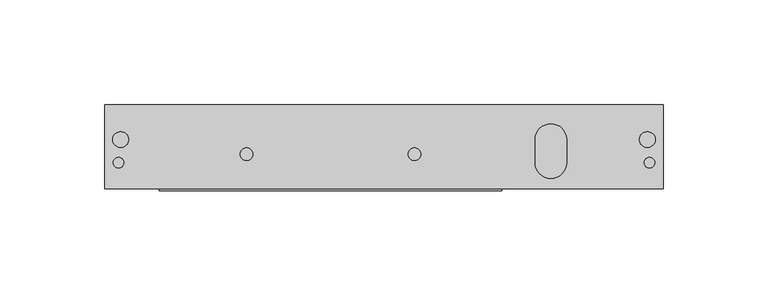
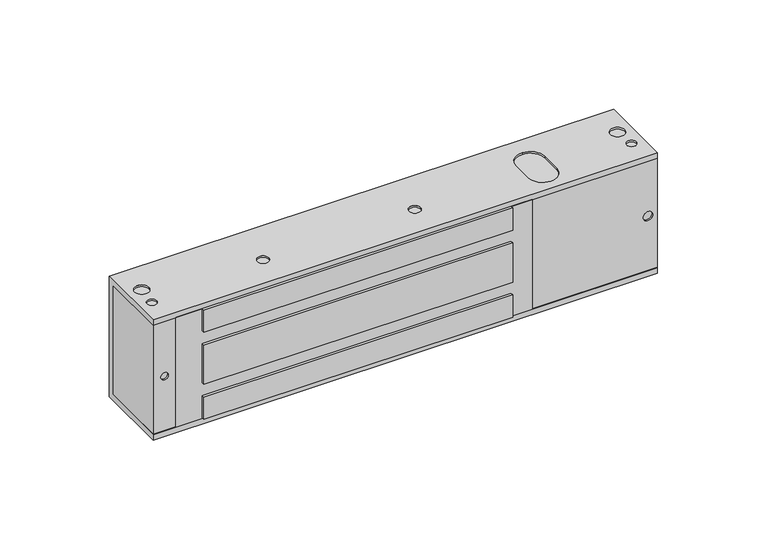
"""IFC4 building model written with IfcOpenShell, lengths in millimetres: proxy geometry, Электромагнитный_замок_ML-500АL_с_герконом_AccordTec_R19 : Электромагнитный_замок_ML-500АL_с_герконом_AccordTec_R19."""

import ifcopenshell
import ifcopenshell.guid

model = None  # the IFC model being written
_history = None  # IfcOwnerHistory: only IFC2X3 demands one
_inside = {}  # id of a spatial element -> (the spatial element, [elements in it])
_under = {}  # id of a project, library or spatial element -> (it, [spatial elements below it])
_declared = {}  # id of a project -> (the project, [libraries it declares])
_typed = {}  # id of a type object -> (the type object, [elements of that type])
_made_of = {}  # id of a material, layer set ... -> (it, [elements and type objects made of it])


def new_model(schema):
    """Start an empty IFC model of exactly this schema.

    Asked for "IFC4X3", IfcOpenShell would pick the latest addendum, in which some entities
    have other attributes; the version numbers below select the first issue.
    IFC2X3 requires an IfcOwnerHistory on every rooted entity: one is made here for all.
    """
    global model, _history
    if schema == "IFC4X3":
        model = ifcopenshell.file(schema_version=(4, 3, 0, 0))
    else:
        model = ifcopenshell.file(schema=schema)
    _inside.clear()
    _under.clear()
    _declared.clear()
    _typed.clear()
    _made_of.clear()
    _history = None
    if model.schema == "IFC2X3":
        org = make("IfcOrganization", Name="unknown")
        user = make(
            "IfcPersonAndOrganization",
            ThePerson=make("IfcPerson", FamilyName="unknown"),
            TheOrganization=org,
        )
        app = make(
            "IfcApplication",
            ApplicationDeveloper=org,
            Version="unknown",
            ApplicationFullName="unknown",
            ApplicationIdentifier="unknown",
        )
        _history = make(
            "IfcOwnerHistory",
            OwningUser=user,
            OwningApplication=app,
            ChangeAction="ADDED",
            CreationDate=0,
        )
    return model


def make(cls, **values):
    """One entity of the class cls with the attributes given. An attribute that is None is left unset."""
    return model.create_entity(
        cls, **{name: value for name, value in values.items() if value is not None}
    )


def rooted(cls, **values):
    """An entity with a GlobalId (a new one), such as an element, a storey or a relation."""
    return make(cls, GlobalId=ifcopenshell.guid.new(), OwnerHistory=_history, **values)


def si_unit(unit_type, name, prefix=None):
    """IfcSIUnit, for example si_unit("LENGTHUNIT", "METRE", prefix="MILLI")."""
    return make("IfcSIUnit", UnitType=unit_type, Prefix=prefix, Name=name)


def assignment(units):
    """IfcUnitAssignment: the units of a project."""
    return None if units is None else make("IfcUnitAssignment", Units=units)


def point(xyz):
    """IfcCartesianPoint."""
    return None if xyz is None else make("IfcCartesianPoint", Coordinates=xyz)


def direction(xyz):
    """IfcDirection."""
    return None if xyz is None else make("IfcDirection", DirectionRatios=xyz)


def frame(location, z_axis=None, x_axis=None):
    """IfcAxis2Placement3D, a coordinate frame: its origin and axes. An axis left out is left unset."""
    return make(
        "IfcAxis2Placement3D",
        Location=point(location),
        Axis=direction(z_axis),
        RefDirection=direction(x_axis),
    )


def origin():
    """The frame at (0, 0, 0) with its axes left unset."""
    return frame((0.0, 0.0, 0.0))


def place(relative_to, where):
    """IfcLocalPlacement: puts the frame where relative to a parent placement (None: the world)."""
    return make(
        "IfcLocalPlacement", PlacementRelTo=relative_to, RelativePlacement=where
    )


def context(
    kind, dimensions, precision=None, world=None, true_north=None, identifier=None
):
    """IfcGeometricRepresentationContext, for example the 3D "Model" context."""
    return make(
        "IfcGeometricRepresentationContext",
        ContextIdentifier=identifier,
        ContextType=kind,
        CoordinateSpaceDimension=dimensions,
        Precision=precision,
        WorldCoordinateSystem=world,
        TrueNorth=true_north,
    )


def project(units=None, contexts=None):
    """IfcProject with its units and contexts."""
    return rooted(
        "IfcProject",
        Name="project",
        RepresentationContexts=contexts,
        UnitsInContext=assignment(units),
    )


def spatial(cls, under=None, at=None, **own):
    """A site, building, storey or space (cls), placed at a placement, below another one or the project."""
    s = rooted(cls, ObjectPlacement=at, **own)
    if under is not None:
        _under.setdefault(under.id(), (under, []))[1].append(s)
    return s


def polyline(points):
    """IfcPolyline through the points."""
    return make("IfcPolyline", Points=[point(p) for p in points])


def circle_curve(where, radius):
    """IfcCircle in the frame where."""
    return make("IfcCircle", Position=where, Radius=radius)


def outline(outer, holes=None, kind="AREA"):
    """IfcArbitraryClosedProfileDef: a profile drawn as a closed curve; with holes, ...WithVoids."""
    if holes is None:
        return make("IfcArbitraryClosedProfileDef", ProfileType=kind, OuterCurve=outer)
    return make(
        "IfcArbitraryProfileDefWithVoids",
        ProfileType=kind,
        OuterCurve=outer,
        InnerCurves=holes,
    )


def extrude(swept, where, along, depth):
    """IfcExtrudedAreaSolid: the profile swept, set in the frame where, extruded along a direction by depth."""
    return make(
        "IfcExtrudedAreaSolid",
        SweptArea=swept,
        Position=where,
        ExtrudedDirection=direction(along),
        Depth=depth,
    )


def shape(context_of_items, identifier, shape_type, items):
    """IfcShapeRepresentation: the items that make up one representation, for example the "Body"."""
    return make(
        "IfcShapeRepresentation",
        ContextOfItems=context_of_items,
        RepresentationIdentifier=identifier,
        RepresentationType=shape_type,
        Items=items,
    )


def source(mapping_origin, context_of_items, identifier, shape_type, items):
    """IfcRepresentationMap: a shape defined once, which mapped items show again and again."""
    return make(
        "IfcRepresentationMap",
        MappingOrigin=mapping_origin,
        MappedRepresentation=shape(context_of_items, identifier, shape_type, items),
    )


def transform(
    local_origin,
    x_axis=None,
    y_axis=None,
    z_axis=None,
    scale=None,
    scale2=None,
    scale3=None,
    uniform=True,
):
    """IfcCartesianTransformationOperator3D, or its non-uniform kind. x_axis, y_axis, z_axis: its Axis1, 2, 3."""
    if uniform:
        return make(
            "IfcCartesianTransformationOperator3D",
            Axis1=direction(x_axis),
            Axis2=direction(y_axis),
            LocalOrigin=point(local_origin),
            Scale=scale,
            Axis3=direction(z_axis),
        )
    return make(
        "IfcCartesianTransformationOperator3DnonUniform",
        Axis1=direction(x_axis),
        Axis2=direction(y_axis),
        LocalOrigin=point(local_origin),
        Scale=scale,
        Axis3=direction(z_axis),
        Scale2=scale2,
        Scale3=scale3,
    )


def mapped(mapping_source, mapping_target):
    """IfcMappedItem: shows the shape of a source again, moved by a transform."""
    return make(
        "IfcMappedItem", MappingSource=mapping_source, MappingTarget=mapping_target
    )


def made_of(thing, what):
    """Note that an element or type object is made of a material, layer set ...; save() writes the relation."""
    if what is not None:
        _made_of.setdefault(what.id(), (what, []))[1].append(thing)
    return thing


def element(
    cls,
    number,
    at=None,
    inside=None,
    cuts=None,
    type_object=None,
    material=None,
    context=None,
    identifier="Body",
    shape_type=None,
    held_by="IfcProductDefinitionShape",
    body=None,
    shapes=None,
    **own,
):
    """One element of the class cls, such as IfcWall. Its Tag is "e" and its number.

    at: its placement. inside: the storey or other place that contains it. cuts: it is an
    opening in that element (IfcRelVoidsElement). A single representation is given by context,
    identifier, shape_type and body (its items); several are given by shapes. held_by: the class
    of the entity that holds the representations. save() writes the other relations.
    """
    e = rooted(cls, Tag="e%d" % number, ObjectPlacement=at, **own)
    if body is not None:
        shapes = [shape(context, identifier, shape_type, body)]
    if shapes is not None:
        e.Representation = make(held_by, Representations=shapes)
    if inside is not None:
        _inside.setdefault(inside.id(), (inside, []))[1].append(e)
    if cuts is not None:
        rooted(
            "IfcRelVoidsElement", RelatingBuildingElement=cuts, RelatedOpeningElement=e
        )
    if type_object is not None:
        _typed.setdefault(type_object.id(), (type_object, []))[1].append(e)
    return made_of(e, material)


def aggregate(whole, parts):
    """IfcRelAggregates: a whole, such as a stair, and the parts it consists of."""
    return rooted("IfcRelAggregates", RelatingObject=whole, RelatedObjects=parts)


def save(model, path):
    """Write the relations noted so far, then the file.

    IfcRelAggregates (storeys below a building ...), IfcRelContainedInSpatialStructure (elements
    in a storey), IfcRelDefinesByType, IfcRelAssociatesMaterial and IfcRelDeclares: one each for
    every whole, place, type object, material and project.
    """
    for whole, parts in _under.values():
        aggregate(whole, parts)
    for where, things in _inside.values():
        rooted(
            "IfcRelContainedInSpatialStructure",
            RelatedElements=things,
            RelatingStructure=where,
        )
    for kind, things in _typed.values():
        rooted("IfcRelDefinesByType", RelatedObjects=things, RelatingType=kind)
    for what, things in _made_of.values():
        rooted("IfcRelAssociatesMaterial", RelatedObjects=things, RelatingMaterial=what)
    for by, libraries in _declared.values():
        rooted("IfcRelDeclares", RelatingContext=by, RelatedDefinitions=libraries)
    model.write(path)


def plane_surface(at):
    """IfcPlane: the flat surface through the origin of the frame at, square to its z axis."""
    return make("IfcPlane", Position=at)


def revolved_surface(curve, axis_point, axis_direction):
    """IfcSurfaceOfRevolution: the curve turned about the line through axis_point along axis_direction."""
    return make(
        "IfcSurfaceOfRevolution",
        SweptCurve=make("IfcArbitraryOpenProfileDef", ProfileType="CURVE", Curve=curve),
        AxisPosition=make("IfcAxis1Placement", Location=point(axis_point), Axis=direction(axis_direction)),
    )


def advanced_brep(points, edges, surfaces, faces):
    """IfcAdvancedBrep: a solid bounded by faces that lie on surfaces and meet in shared edges.

    An edge is (start, end): straight between two places in points (the first is 0);
    or (start, end, curve); or (start, end, curve, False) where it runs against its curve.
    A face is (place in surfaces, loops), or (place, loops, False) where it looks against
    its surface's normal. A loop lists edges by number (the first is 1), with a minus sign
    where the edge is run from its end to its start. The first loop is the outer one.
    """
    corners = [point(p) for p in points]
    vertices = [make("IfcVertexPoint", VertexGeometry=c) for c in corners]
    made = []
    for start, end, *more in edges:
        made.append(
            make(
                "IfcEdgeCurve",
                EdgeStart=vertices[start],
                EdgeEnd=vertices[end],
                EdgeGeometry=more[0] if more else make("IfcPolyline", Points=[corners[start], corners[end]]),
                SameSense=more[1] if len(more) > 1 else True,
            )
        )
    hull = []
    for where, loops, *sense in faces:
        bounds = []
        for j, loop in enumerate(loops):
            ring = [make("IfcOrientedEdge", EdgeElement=made[abs(k) - 1], Orientation=k > 0) for k in loop]
            bounds.append(
                make(
                    "IfcFaceOuterBound" if j == 0 else "IfcFaceBound",
                    Bound=make("IfcEdgeLoop", EdgeList=ring),
                    Orientation=True,
                )
            )
        hull.append(make("IfcAdvancedFace", Bounds=bounds, FaceSurface=surfaces[where], SameSense=sense[0] if sense else True))
    return make("IfcAdvancedBrep", Outer=make("IfcClosedShell", CfsFaces=hull))


def generic_models_5bd64e26(model_context):
    return source(origin(), model_context, "Body", "SolidModel", [
        extrude(outline(polyline([(189.0, -1.0), (26.0, -1.0), (26.0, 1.0), (189.0, 1.0), (189.0, -1.0)])), frame((0.0, 0.0, 51.5), z_axis=(0.0, 0.0, 1.0), x_axis=(1.0, 0.0, 0.0)), (0.0, 0.0, 1.0), 12.5),
        extrude(outline(polyline([(189.0, -1.0), (26.0, -1.0), (26.0, 1.0), (189.0, 1.0), (189.0, -1.0)])), frame((0.0, 0.0, 22.5), z_axis=(0.0, 0.0, 1.0), x_axis=(1.0, 0.0, 0.0)), (0.0, 0.0, 1.0), 22.0),
        extrude(outline(polyline([(189.0, -1.0), (26.0, -1.0), (26.0, 1.0), (189.0, 1.0), (189.0, -1.0)])), frame((0.0, 0.0, 3.0), z_axis=(0.0, 0.0, 1.0), x_axis=(1.0, 0.0, 0.0)), (0.0, 0.0, 1.0), 12.5),
        extrude(outline(polyline([(64.0, 12.0), (3.0, 12.0), (3.0, 26.0), (15.5, 26.0), (15.5, 189.0), (3.0, 189.0), (3.0, 200.0), (64.0, 200.0), (64.0, 189.0), (51.5, 189.0), (51.5, 26.0), (64.0, 26.0), (64.0, 12.0)]), holes=[polyline([(44.5, 26.0), (44.5, 189.0), (22.5, 189.0), (22.5, 26.0), (44.5, 26.0)])]), frame((0.0, 0.0, 0.0), z_axis=(0.0, 1.0, 0.0), x_axis=(0.0, 0.0, 1.0)), (0.0, 0.0, 1.0), 1.0),
        advanced_brep(
        [(266.0, 0.0, 64.0), (266.0, 37.0, 64.0), (266.0, 37.0, 3.0), (266.0, 0.0, 3.0), (266.0, 0.0, 0.0), (266.0, 40.0, 0.0), (266.0, 40.0, 67.0), (266.0, 0.0, 67.0), (0.0, 0.0, 64.0), (0.0, 0.0, 67.0), (0.0, 40.0, 67.0), (0.0, 40.0, 0.0), (0.0, 0.0, 0.0), (0.0, 0.0, 3.0), (0.0, 37.0, 3.0), (0.0, 37.0, 64.0), (200.0, 0.0, 64.0), (189.0, 0.0, 64.0), (26.0, 0.0, 64.0), (12.0, 0.0, 64.0), (12.0, 0.0, 3.0), (26.0, 0.0, 3.0), (189.0, 0.0, 3.0), (200.0, 0.0, 3.0), (3.75, 23.5, 0.0), (11.25, 23.5, 0.0), (4.0, 8.0, 0.0), (9.0, 8.0, 0.0), (64.5, 16.5, 0.0), (70.5, 16.5, 0.0), (144.5, 16.5, 0.0), (150.5, 16.5, 0.0), (221.0, 17.0, 0.0), (229.0, 17.0, 0.0), (254.75, 23.5, 0.0), (262.25, 23.5, 0.0), (257.0, 8.0, 0.0), (262.0, 8.0, 0.0), (3.75, 23.5, 67.0), (11.25, 23.5, 67.0), (4.0, 12.5, 67.0), (9.0, 12.5, 67.0), (64.5, 16.5, 67.0), (70.5, 16.5, 67.0), (144.5, 16.5, 67.0), (150.5, 16.5, 67.0), (205.0, 12.5, 67.0), (205.0, 23.5, 67.0), (212.5, 31.0, 67.0), (220.0, 23.5, 67.0), (220.0, 12.5, 67.0), (212.5, 5.0, 67.0), (254.75, 23.5, 67.0), (262.25, 23.5, 67.0), (257.0, 12.5, 67.0), (262.0, 12.5, 67.0), (3.75, 23.5, 1.0), (11.25, 23.5, 1.0), (4.0, 8.0, 1.0), (9.0, 8.0, 1.0), (64.5, 16.5, 1.0), (70.5, 16.5, 1.0), (144.5, 16.5, 1.0), (150.5, 16.5, 1.0), (221.0, 17.0, 1.0), (229.0, 17.0, 1.0), (254.75, 23.5, 1.0), (262.25, 23.5, 1.0), (257.0, 8.0, 1.0), (262.0, 8.0, 1.0), (3.75, 23.5, 66.0), (11.25, 23.5, 66.0), (4.0, 12.5, 66.0), (9.0, 12.5, 66.0), (64.5, 16.5, 66.0), (70.5, 16.5, 66.0), (144.5, 16.5, 66.0), (150.5, 16.5, 66.0), (205.0, 12.5, 66.0), (212.5, 5.0, 66.0), (220.0, 12.5, 66.0), (220.0, 23.5, 66.0), (212.5, 31.0, 66.0), (205.0, 23.5, 66.0), (254.75, 23.5, 66.0), (262.25, 23.5, 66.0), (257.0, 12.5, 66.0), (262.0, 12.5, 66.0)],
        [
            (0, 1),
            (1, 2),
            (2, 3),
            (3, 4),
            (4, 5),
            (5, 6),
            (6, 7),
            (7, 0),
            (8, 9),
            (9, 10),
            (10, 11),
            (11, 12),
            (12, 13),
            (13, 14),
            (14, 15),
            (15, 8),
            (0, 16),
            (16, 17),
            (17, 18),
            (18, 19),
            (19, 8),
            (15, 1),
            (14, 2),
            (13, 20),
            (20, 21),
            (21, 22),
            (22, 23),
            (23, 3),
            (12, 4),
            (11, 5),
            (24, 25, circle_curve(frame((7.5, 23.5, 0.0), z_axis=(0.0, 0.0, 1.0), x_axis=(1.0, 0.0, 0.0)), 3.75)),
            (25, 24, circle_curve(frame((7.5, 23.5, 0.0), z_axis=(0.0, 0.0, 1.0), x_axis=(1.0, 0.0, 0.0)), 3.75)),
            (26, 27, circle_curve(frame((6.5, 8.0, 0.0), z_axis=(0.0, 0.0, 1.0), x_axis=(1.0, 0.0, 0.0)), 2.5)),
            (27, 26, circle_curve(frame((6.5, 8.0, 0.0), z_axis=(0.0, 0.0, 1.0), x_axis=(1.0, 0.0, 0.0)), 2.5)),
            (28, 29, circle_curve(frame((67.5, 16.5, 0.0), z_axis=(0.0, 0.0, 1.0), x_axis=(1.0, 0.0, 0.0)), 3.0)),
            (29, 28, circle_curve(frame((67.5, 16.5, 0.0), z_axis=(0.0, 0.0, 1.0), x_axis=(1.0, 0.0, 0.0)), 3.0)),
            (30, 31, circle_curve(frame((147.5, 16.5, 0.0), z_axis=(0.0, 0.0, 1.0), x_axis=(1.0, 0.0, 0.0)), 3.0)),
            (31, 30, circle_curve(frame((147.5, 16.5, 0.0), z_axis=(0.0, 0.0, 1.0), x_axis=(1.0, 0.0, 0.0)), 3.0)),
            (32, 33, circle_curve(frame((225.0, 17.0, 0.0), z_axis=(0.0, 0.0, 1.0), x_axis=(1.0, 0.0, 0.0)), 4.0)),
            (33, 32, circle_curve(frame((225.0, 17.0, 0.0), z_axis=(0.0, 0.0, 1.0), x_axis=(1.0, 0.0, 0.0)), 4.0)),
            (34, 35, circle_curve(frame((258.5, 23.5, 0.0), z_axis=(0.0, 0.0, 1.0), x_axis=(1.0, 0.0, 0.0)), 3.75)),
            (35, 34, circle_curve(frame((258.5, 23.5, 0.0), z_axis=(0.0, 0.0, 1.0), x_axis=(1.0, 0.0, 0.0)), 3.75)),
            (36, 37, circle_curve(frame((259.5, 8.0, 0.0), z_axis=(0.0, 0.0, 1.0), x_axis=(1.0, 0.0, 0.0)), 2.5)),
            (37, 36, circle_curve(frame((259.5, 8.0, 0.0), z_axis=(0.0, 0.0, 1.0), x_axis=(1.0, 0.0, 0.0)), 2.5)),
            (10, 6),
            (9, 7),
            (38, 39, circle_curve(frame((7.5, 23.5, 67.0), z_axis=(0.0, 0.0, -1.0), x_axis=(1.0, 0.0, 0.0)), 3.75)),
            (39, 38, circle_curve(frame((7.5, 23.5, 67.0), z_axis=(0.0, 0.0, -1.0), x_axis=(1.0, 0.0, 0.0)), 3.75)),
            (40, 41, circle_curve(frame((6.5, 12.5, 67.0), z_axis=(0.0, 0.0, -1.0), x_axis=(1.0, 0.0, 0.0)), 2.5)),
            (41, 40, circle_curve(frame((6.5, 12.5, 67.0), z_axis=(0.0, 0.0, -1.0), x_axis=(1.0, 0.0, 0.0)), 2.5)),
            (42, 43, circle_curve(frame((67.5, 16.5, 67.0), z_axis=(0.0, 0.0, -1.0), x_axis=(1.0, 0.0, 0.0)), 3.0)),
            (43, 42, circle_curve(frame((67.5, 16.5, 67.0), z_axis=(0.0, 0.0, -1.0), x_axis=(1.0, 0.0, 0.0)), 3.0)),
            (44, 45, circle_curve(frame((147.5, 16.5, 67.0), z_axis=(0.0, 0.0, -1.0), x_axis=(1.0, 0.0, 0.0)), 3.0)),
            (45, 44, circle_curve(frame((147.5, 16.5, 67.0), z_axis=(0.0, 0.0, -1.0), x_axis=(1.0, 0.0, 0.0)), 3.0)),
            (46, 47),
            (47, 48, circle_curve(frame((212.5, 23.5, 67.0), z_axis=(0.0, 0.0, -1.0), x_axis=(1.0, 0.0, 0.0)), 7.5)),
            (48, 49, circle_curve(frame((212.5, 23.5, 67.0), z_axis=(0.0, 0.0, -1.0), x_axis=(1.0, 0.0, 0.0)), 7.5)),
            (49, 50),
            (50, 51, circle_curve(frame((212.5, 12.5, 67.0), z_axis=(0.0, 0.0, -1.0), x_axis=(1.0, 0.0, 0.0)), 7.5)),
            (51, 46, circle_curve(frame((212.5, 12.5, 67.0), z_axis=(0.0, 0.0, -1.0), x_axis=(1.0, 0.0, 0.0)), 7.5)),
            (52, 53, circle_curve(frame((258.5, 23.5, 67.0), z_axis=(0.0, 0.0, -1.0), x_axis=(1.0, 0.0, 0.0)), 3.75)),
            (53, 52, circle_curve(frame((258.5, 23.5, 67.0), z_axis=(0.0, 0.0, -1.0), x_axis=(1.0, 0.0, 0.0)), 3.75)),
            (54, 55, circle_curve(frame((259.5, 12.5, 67.0), z_axis=(0.0, 0.0, -1.0), x_axis=(1.0, 0.0, 0.0)), 2.5)),
            (55, 54, circle_curve(frame((259.5, 12.5, 67.0), z_axis=(0.0, 0.0, -1.0), x_axis=(1.0, 0.0, 0.0)), 2.5)),
            (56, 57, circle_curve(frame((7.5, 23.5, 1.0), z_axis=(0.0, 0.0, -1.0), x_axis=(1.0, 0.0, 0.0)), 3.75)),
            (57, 56, circle_curve(frame((7.5, 23.5, 1.0), z_axis=(0.0, 0.0, -1.0), x_axis=(1.0, 0.0, 0.0)), 3.75)),
            (58, 59, circle_curve(frame((6.5, 8.0, 1.0), z_axis=(0.0, 0.0, -1.0), x_axis=(1.0, 0.0, 0.0)), 2.5)),
            (59, 58, circle_curve(frame((6.5, 8.0, 1.0), z_axis=(0.0, 0.0, -1.0), x_axis=(1.0, 0.0, 0.0)), 2.5)),
            (60, 61, circle_curve(frame((67.5, 16.5, 1.0), z_axis=(0.0, 0.0, -1.0), x_axis=(1.0, 0.0, 0.0)), 3.0)),
            (61, 60, circle_curve(frame((67.5, 16.5, 1.0), z_axis=(0.0, 0.0, -1.0), x_axis=(1.0, 0.0, 0.0)), 3.0)),
            (62, 63, circle_curve(frame((147.5, 16.5, 1.0), z_axis=(0.0, 0.0, -1.0), x_axis=(1.0, 0.0, 0.0)), 3.0)),
            (63, 62, circle_curve(frame((147.5, 16.5, 1.0), z_axis=(0.0, 0.0, -1.0), x_axis=(1.0, 0.0, 0.0)), 3.0)),
            (64, 65, circle_curve(frame((225.0, 17.0, 1.0), z_axis=(0.0, 0.0, -1.0), x_axis=(1.0, 0.0, 0.0)), 4.0)),
            (65, 64, circle_curve(frame((225.0, 17.0, 1.0), z_axis=(0.0, 0.0, -1.0), x_axis=(1.0, 0.0, 0.0)), 4.0)),
            (66, 67, circle_curve(frame((258.5, 23.5, 1.0), z_axis=(0.0, 0.0, -1.0), x_axis=(1.0, 0.0, 0.0)), 3.75)),
            (67, 66, circle_curve(frame((258.5, 23.5, 1.0), z_axis=(0.0, 0.0, -1.0), x_axis=(1.0, 0.0, 0.0)), 3.75)),
            (68, 69, circle_curve(frame((259.5, 8.0, 1.0), z_axis=(0.0, 0.0, -1.0), x_axis=(1.0, 0.0, 0.0)), 2.5)),
            (69, 68, circle_curve(frame((259.5, 8.0, 1.0), z_axis=(0.0, 0.0, -1.0), x_axis=(1.0, 0.0, 0.0)), 2.5)),
            (57, 25),
            (24, 56),
            (59, 27),
            (26, 58),
            (61, 29),
            (28, 60),
            (63, 31),
            (30, 62),
            (65, 33),
            (32, 64),
            (67, 35),
            (34, 66),
            (69, 37),
            (36, 68),
            (70, 71, circle_curve(frame((7.5, 23.5, 66.0), z_axis=(0.0, 0.0, 1.0), x_axis=(1.0, 0.0, 0.0)), 3.75)),
            (71, 70, circle_curve(frame((7.5, 23.5, 66.0), z_axis=(0.0, 0.0, 1.0), x_axis=(1.0, 0.0, 0.0)), 3.75)),
            (72, 73, circle_curve(frame((6.5, 12.5, 66.0), z_axis=(0.0, 0.0, 1.0), x_axis=(1.0, 0.0, 0.0)), 2.5)),
            (73, 72, circle_curve(frame((6.5, 12.5, 66.0), z_axis=(0.0, 0.0, 1.0), x_axis=(1.0, 0.0, 0.0)), 2.5)),
            (74, 75, circle_curve(frame((67.5, 16.5, 66.0), z_axis=(0.0, 0.0, 1.0), x_axis=(1.0, 0.0, 0.0)), 3.0)),
            (75, 74, circle_curve(frame((67.5, 16.5, 66.0), z_axis=(0.0, 0.0, 1.0), x_axis=(1.0, 0.0, 0.0)), 3.0)),
            (76, 77, circle_curve(frame((147.5, 16.5, 66.0), z_axis=(0.0, 0.0, 1.0), x_axis=(1.0, 0.0, 0.0)), 3.0)),
            (77, 76, circle_curve(frame((147.5, 16.5, 66.0), z_axis=(0.0, 0.0, 1.0), x_axis=(1.0, 0.0, 0.0)), 3.0)),
            (78, 79, circle_curve(frame((212.5, 12.5, 66.0), z_axis=(0.0, 0.0, 1.0), x_axis=(1.0, 0.0, 0.0)), 7.5)),
            (79, 80, circle_curve(frame((212.5, 12.5, 66.0), z_axis=(0.0, 0.0, 1.0), x_axis=(1.0, 0.0, 0.0)), 7.5)),
            (80, 81),
            (81, 82, circle_curve(frame((212.5, 23.5, 66.0), z_axis=(0.0, 0.0, 1.0), x_axis=(1.0, 0.0, 0.0)), 7.5)),
            (82, 83, circle_curve(frame((212.5, 23.5, 66.0), z_axis=(0.0, 0.0, 1.0), x_axis=(1.0, 0.0, 0.0)), 7.5)),
            (83, 78),
            (84, 85, circle_curve(frame((258.5, 23.5, 66.0), z_axis=(0.0, 0.0, 1.0), x_axis=(1.0, 0.0, 0.0)), 3.75)),
            (85, 84, circle_curve(frame((258.5, 23.5, 66.0), z_axis=(0.0, 0.0, 1.0), x_axis=(1.0, 0.0, 0.0)), 3.75)),
            (86, 87, circle_curve(frame((259.5, 12.5, 66.0), z_axis=(0.0, 0.0, 1.0), x_axis=(1.0, 0.0, 0.0)), 2.5)),
            (87, 86, circle_curve(frame((259.5, 12.5, 66.0), z_axis=(0.0, 0.0, 1.0), x_axis=(1.0, 0.0, 0.0)), 2.5)),
            (71, 39),
            (38, 70),
            (73, 41),
            (40, 72),
            (75, 43),
            (42, 74),
            (77, 45),
            (44, 76),
            (83, 47),
            (46, 78),
            (82, 48),
            (81, 49),
            (80, 50),
            (79, 51),
            (85, 53),
            (52, 84),
            (87, 55),
            (54, 86),
        ],
        [
            plane_surface(frame((266.0, 0.0, 64.0), z_axis=(1.0, 0.0, 0.0), x_axis=(0.0, 1.0, 0.0))),
            plane_surface(frame((0.0, 0.0, 64.0), z_axis=(-1.0, 0.0, 0.0), x_axis=(0.0, -1.0, 0.0))),
            plane_surface(frame((266.0, 0.0, 64.0), z_axis=(0.0, 0.0, -1.0), x_axis=(-1.0, 0.0, 0.0))),
            plane_surface(frame((266.0, 37.0, 64.0), z_axis=(0.0, -1.0, 0.0), x_axis=(-1.0, 0.0, 0.0))),
            plane_surface(frame((266.0, 37.0, 3.0), z_axis=(0.0, 0.0, 1.0), x_axis=(-1.0, 0.0, 0.0))),
            plane_surface(frame((266.0, 0.0, 3.0), z_axis=(0.0, -1.0, 0.0), x_axis=(-1.0, 0.0, 0.0))),
            plane_surface(frame((266.0, 0.0, 0.0), z_axis=(0.0, 0.0, -1.0), x_axis=(-1.0, 0.0, 0.0))),
            plane_surface(frame((266.0, 40.0, 0.0), z_axis=(0.0, 1.0, 0.0), x_axis=(-1.0, 0.0, 0.0))),
            plane_surface(frame((266.0, 40.0, 67.0), z_axis=(0.0, 0.0, 1.0), x_axis=(-1.0, 0.0, 0.0))),
            plane_surface(frame((266.0, 0.0, 67.0), z_axis=(0.0, -1.0, 0.0), x_axis=(-1.0, 0.0, 0.0))),
            plane_surface(frame((11.25, 23.5, 1.0), z_axis=(0.0, 0.0, -1.0), x_axis=(0.0, 1.0, 0.0))),
            revolved_surface(polyline([(11.25, 23.5, 1.0), (11.25, 23.5, 0.0)]), (7.5, 23.5, -1.0), (0.0, 0.0, 1.0)),
            revolved_surface(polyline([(9.0, 8.0, 1.0), (9.0, 8.0, 0.0)]), (6.5, 8.0, 0.0), (0.0, 0.0, 1.0)),
            revolved_surface(polyline([(70.5, 16.5, 1.0), (70.5, 16.5, 0.0)]), (67.5, 16.5, 0.0), (0.0, 0.0, 1.0)),
            revolved_surface(polyline([(150.5, 16.5, 1.0), (150.5, 16.5, 0.0)]), (147.5, 16.5, 0.0), (0.0, 0.0, 1.0)),
            revolved_surface(polyline([(229.0, 17.0, 1.0), (229.0, 17.0, 0.0)]), (225.0, 17.0, 0.0), (0.0, 0.0, 1.0)),
            revolved_surface(polyline([(262.25, 23.5, 1.0), (262.25, 23.5, 0.0)]), (258.5, 23.5, 0.0), (0.0, 0.0, 1.0)),
            revolved_surface(polyline([(262.0, 8.0, 1.0), (262.0, 8.0, 0.0)]), (259.5, 8.0, 0.0), (0.0, 0.0, 1.0)),
            plane_surface(frame((11.25, 23.5, 66.0), z_axis=(0.0, 0.0, 1.0), x_axis=(0.0, -1.0, 0.0))),
            revolved_surface(polyline([(11.25, 23.5, 66.0), (11.25, 23.5, 67.0)]), (7.5, 23.5, 68.0), (0.0, 0.0, -1.0)),
            revolved_surface(polyline([(9.0, 12.5, 66.0), (9.0, 12.5, 67.0)]), (6.5, 12.5, 67.0), (0.0, 0.0, -1.0)),
            revolved_surface(polyline([(70.5, 16.5, 66.0), (70.5, 16.5, 67.0)]), (67.5, 16.5, 67.0), (0.0, 0.0, -1.0)),
            revolved_surface(polyline([(150.5, 16.5, 66.0), (150.5, 16.5, 67.0)]), (147.5, 16.5, 67.0), (0.0, 0.0, -1.0)),
            plane_surface(frame((205.0, 12.5, 66.0), z_axis=(1.0, 0.0, 0.0), x_axis=(0.0, 0.0, 1.0))),
            revolved_surface(polyline([(220.0, 23.5, 66.0), (220.0, 23.5, 67.0)]), (212.5, 23.5, 67.0), (0.0, 0.0, -1.0)),
            plane_surface(frame((220.0, 23.5, 66.0), z_axis=(-1.0, 0.0, 0.0), x_axis=(0.0, 0.0, 1.0))),
            revolved_surface(polyline([(220.0, 12.5, 66.0), (220.0, 12.5, 67.0)]), (212.5, 12.5, 67.0), (0.0, 0.0, -1.0)),
            revolved_surface(polyline([(262.25, 23.5, 66.0), (262.25, 23.5, 67.0)]), (258.5, 23.5, 67.0), (0.0, 0.0, -1.0)),
            revolved_surface(polyline([(262.0, 12.5, 66.0), (262.0, 12.5, 67.0)]), (259.5, 12.5, 67.0), (0.0, 0.0, -1.0)),
        ],
        [
            (0, [[1, 2, 3, 4, 5, 6, 7, 8]]),
            (1, [[9, 10, 11, 12, 13, 14, 15, 16]]),
            (2, [[-1, 17, 18, 19, 20, 21, -16, 22]]),
            (3, [[-2, -22, -15, 23]]),
            (4, [[-3, -23, -14, 24, 25, 26, 27, 28]]),
            (5, [[-4, -28, -27, -26, -25, -24, -13, 29]]),
            (6, [[-5, -29, -12, 30], [31, 32], [33, 34], [35, 36], [37, 38], [39, 40], [41, 42], [43, 44]]),
            (7, [[-6, -30, -11, 45]]),
            (8, [[-7, -45, -10, 46], [47, 48], [49, 50], [51, 52], [53, 54], [55, 56, 57, 58, 59, 60], [61, 62], [63, 64]]),
            (9, [[-8, -46, -9, -21, -20, -19, -18, -17]]),
            (10, [[65, 66]]),
            (10, [[67, 68]]),
            (10, [[69, 70]]),
            (10, [[71, 72]]),
            (10, [[73, 74]]),
            (10, [[75, 76]]),
            (10, [[77, 78]]),
            (11, [[-66, 79, -31, 80]]),
            (11, [[-65, -80, -32, -79]]),
            (12, [[-68, 81, -33, 82]]),
            (12, [[-67, -82, -34, -81]]),
            (13, [[-70, 83, -35, 84]]),
            (13, [[-69, -84, -36, -83]]),
            (14, [[-72, 85, -37, 86]]),
            (14, [[-71, -86, -38, -85]]),
            (15, [[-74, 87, -39, 88]]),
            (15, [[-73, -88, -40, -87]]),
            (16, [[-76, 89, -41, 90]]),
            (16, [[-75, -90, -42, -89]]),
            (17, [[-78, 91, -43, 92]]),
            (17, [[-77, -92, -44, -91]]),
            (18, [[93, 94]]),
            (18, [[95, 96]]),
            (18, [[97, 98]]),
            (18, [[99, 100]]),
            (18, [[101, 102, 103, 104, 105, 106]]),
            (18, [[107, 108]]),
            (18, [[109, 110]]),
            (19, [[-94, 111, -47, 112]]),
            (19, [[-93, -112, -48, -111]]),
            (20, [[-96, 113, -49, 114]]),
            (20, [[-95, -114, -50, -113]]),
            (21, [[-98, 115, -51, 116]]),
            (21, [[-97, -116, -52, -115]]),
            (22, [[-100, 117, -53, 118]]),
            (22, [[-99, -118, -54, -117]]),
            (23, [[-106, 119, -55, 120]]),
            (24, [[-105, 121, -56, -119]]),
            (24, [[-104, 122, -57, -121]]),
            (25, [[-103, 123, -58, -122]]),
            (26, [[-102, 124, -59, -123]]),
            (26, [[-101, -120, -60, -124]]),
            (27, [[-108, 125, -61, 126]]),
            (27, [[-107, -126, -62, -125]]),
            (28, [[-110, 127, -63, 128]]),
            (28, [[-109, -128, -64, -127]]),
        ],
    ),
        advanced_brep(
        [(0.0, 0.0, 3.0), (0.0, 0.0, 64.0), (0.0, 37.0, 64.0), (0.0, 37.0, 3.0), (12.0, 0.0, 3.0), (12.0, 0.0, 64.0), (8.0, 0.0, 33.5), (4.0, 0.0, 33.5), (266.0, 0.0, 3.0), (266.0, 0.0, 64.0), (200.0, 0.0, 64.0), (200.0, 0.0, 3.0), (263.5, 0.0, 33.5), (258.5, 0.0, 33.5), (266.0, 37.0, 3.0), (266.0, 37.0, 64.0), (12.0, 1.0, 64.0), (26.0, 1.0, 64.0), (189.0, 1.0, 64.0), (200.0, 1.0, 64.0), (200.0, 1.0, 3.0), (189.0, 1.0, 3.0), (26.0, 1.0, 3.0), (12.0, 1.0, 3.0), (4.0, 1.0, 33.5), (8.0, 1.0, 33.5), (258.5, 1.0, 33.5), (263.5, 1.0, 33.5)],
        [
            (0, 1),
            (1, 2),
            (2, 3),
            (3, 0),
            (0, 4),
            (4, 5),
            (5, 1),
            (6, 7, circle_curve(frame((6.0, 0.0, 33.5), z_axis=(0.0, 1.0, 0.0), x_axis=(1.0, 0.0, 0.0)), 2.0)),
            (7, 6, circle_curve(frame((6.0, 0.0, 33.5), z_axis=(0.0, 1.0, 0.0), x_axis=(1.0, 0.0, 0.0)), 2.0)),
            (8, 9),
            (9, 10),
            (10, 11),
            (11, 8),
            (12, 13, circle_curve(frame((261.0, 0.0, 33.5), z_axis=(0.0, 1.0, 0.0), x_axis=(1.0, 0.0, 0.0)), 2.5)),
            (13, 12, circle_curve(frame((261.0, 0.0, 33.5), z_axis=(0.0, 1.0, 0.0), x_axis=(1.0, 0.0, 0.0)), 2.5)),
            (8, 14),
            (14, 15),
            (15, 9),
            (15, 2),
            (5, 16),
            (16, 17),
            (17, 18),
            (18, 19),
            (19, 10),
            (14, 3),
            (11, 20),
            (20, 21),
            (21, 22),
            (22, 23),
            (23, 4),
            (16, 23),
            (20, 19),
            (24, 25, circle_curve(frame((6.0, 1.0, 33.5), z_axis=(0.0, -1.0, 0.0), x_axis=(1.0, 0.0, 0.0)), 2.0)),
            (25, 24, circle_curve(frame((6.0, 1.0, 33.5), z_axis=(0.0, -1.0, 0.0), x_axis=(1.0, 0.0, 0.0)), 2.0)),
            (26, 27, circle_curve(frame((261.0, 1.0, 33.5), z_axis=(0.0, -1.0, 0.0), x_axis=(1.0, 0.0, 0.0)), 2.5)),
            (27, 26, circle_curve(frame((261.0, 1.0, 33.5), z_axis=(0.0, -1.0, 0.0), x_axis=(1.0, 0.0, 0.0)), 2.5)),
            (24, 7),
            (6, 25),
            (26, 13),
            (12, 27),
        ],
        [
            plane_surface(frame((0.0, 40.0, 67.0), z_axis=(-1.0, 0.0, 0.0), x_axis=(0.0, 0.0, -1.0))),
            plane_surface(frame((0.0, 0.0, 67.0), z_axis=(0.0, -1.0, 0.0), x_axis=(0.0, 0.0, -1.0))),
            plane_surface(frame((266.0, 0.0, 67.0), z_axis=(1.0, 0.0, 0.0), x_axis=(0.0, 0.0, -1.0))),
            plane_surface(frame((266.0, 0.0, 64.0), z_axis=(0.0, 0.0, 1.0), x_axis=(-1.0, 0.0, 0.0))),
            plane_surface(frame((266.0, 37.0, 64.0), z_axis=(0.0, 1.0, 0.0), x_axis=(-1.0, 0.0, 0.0))),
            plane_surface(frame((266.0, 37.0, 3.0), z_axis=(0.0, 0.0, -1.0), x_axis=(-1.0, 0.0, 0.0))),
            plane_surface(frame((12.0, 1.0, 64.0), z_axis=(0.0, -1.0, 0.0), x_axis=(1.0, 0.0, 0.0))),
            plane_surface(frame((12.0, -1.0, 64.0), z_axis=(1.0, 0.0, 0.0), x_axis=(0.0, 1.0, 0.0))),
            plane_surface(frame((200.0, -1.0, 3.0), z_axis=(-1.0, 0.0, 0.0), x_axis=(0.0, 1.0, 0.0))),
            plane_surface(frame((8.0, 1.0, 33.5), z_axis=(0.0, -1.0, 0.0), x_axis=(0.0, 0.0, -1.0))),
            revolved_surface(polyline([(8.0, 0.0, 33.5), (8.0, 1.0, 33.5)]), (6.0, 1.0, 33.5), (0.0, -1.0, 0.0)),
            revolved_surface(polyline([(263.5, 0.0, 33.5), (263.5, 1.0, 33.5)]), (261.0, 0.0, 33.5), (0.0, -1.0, 0.0)),
        ],
        [
            (0, [[1, 2, 3, 4]]),
            (1, [[-1, 5, 6, 7], [8, 9]]),
            (1, [[10, 11, 12, 13], [14, 15]]),
            (2, [[-10, 16, 17, 18]]),
            (3, [[19, -2, -7, 20, 21, 22, 23, 24, -11, -18]]),
            (4, [[-19, -17, 25, -3]]),
            (5, [[-25, -16, -13, 26, 27, 28, 29, 30, -5, -4]]),
            (6, [[31, -29, -28, -27, 32, -23, -22, -21]]),
            (7, [[-31, -20, -6, -30]]),
            (8, [[-32, -26, -12, -24]]),
            (9, [[33, 34]]),
            (9, [[35, 36]]),
            (10, [[-33, 37, -8, 38]]),
            (10, [[-34, -38, -9, -37]]),
            (11, [[-35, 39, -14, 40]]),
            (11, [[-36, -40, -15, -39]]),
        ],
    ),
    ])


if __name__ == "__main__":
    model = new_model("IFC4")
    model_context = context("Model", 3, world=origin())
    ifc_project = project(units=[si_unit("LENGTHUNIT", "METRE", prefix="MILLI")], contexts=[model_context])
    site = spatial("IfcSite", under=ifc_project)
    building = spatial("IfcBuilding", under=site)
    placement = place(None, origin())
    generic_models_shape = generic_models_5bd64e26(model_context)
    element("IfcBuildingElementProxy", 1, Name="Электромагнитный_замок_ML-500АL_с_герконом_AccordTec_R19 : Электромагнитный_замок_ML-500АL_с_герконом_AccordTec_R19", ObjectType="Электромагнитный_замок_ML-500АL_с_герконом_AccordTec_R19 : Электромагнитный_замок_ML-500АL_с_герконом_AccordTec_R19", at=placement, inside=building, context=model_context, shape_type="MappedRepresentation", body=[
        mapped(generic_models_shape, transform((0.0, 0.0, 0.0), x_axis=(1.0, 0.0, 0.0), y_axis=(0.0, 1.0, 0.0), z_axis=(0.0, 0.0, 1.0))),
    ])
    save(model, "model.ifc")
